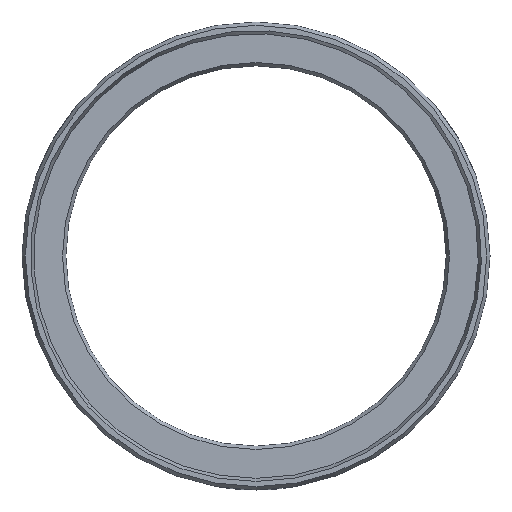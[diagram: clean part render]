
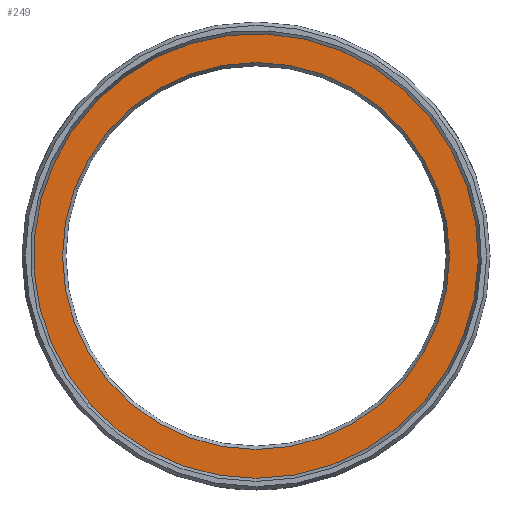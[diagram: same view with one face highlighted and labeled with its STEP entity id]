
A CAD part, left-side view. The second image highlights one B-rep face of the part: STEP entity #249.
In plain terms, the highlighted planar face has unit normal (-1, 0, 0).
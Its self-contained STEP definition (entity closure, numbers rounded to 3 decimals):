
#106=PLANE('',#985);
#249=ADVANCED_FACE('',(#309,#310),#106,.T.);
#309=FACE_BOUND('',#364,.T.);
#310=FACE_BOUND('',#365,.T.);
#364=EDGE_LOOP('',(#571));
#365=EDGE_LOOP('',(#572));
#571=ORIENTED_EDGE('',*,*,#816,.T.);
#572=ORIENTED_EDGE('',*,*,#815,.F.);
#701=VERTEX_POINT('',#1611);
#702=VERTEX_POINT('',#1614);
#815=EDGE_CURVE('',#701,#701,#881,.T.);
#816=EDGE_CURVE('',#702,#702,#882,.T.);
#881=CIRCLE('',#982,38.);
#882=CIRCLE('',#984,33.077);
#982=AXIS2_PLACEMENT_3D('',#1610,#1195,#1196);
#984=AXIS2_PLACEMENT_3D('',#1613,#1199,#1200);
#985=AXIS2_PLACEMENT_3D('',#1615,#1201,#1202);
#1195=DIRECTION('',(1.,0.,0.));
#1196=DIRECTION('',(0.,0.,-1.));
#1199=DIRECTION('',(1.,0.,0.));
#1200=DIRECTION('',(0.,0.,1.));
#1201=DIRECTION('',(-1.,0.,0.));
#1202=DIRECTION('',(0.,0.,1.));
#1610=CARTESIAN_POINT('',(0.,0.,0.));
#1611=CARTESIAN_POINT('',(0.,0.,-38.));
#1613=CARTESIAN_POINT('',(0.,0.,0.));
#1614=CARTESIAN_POINT('',(0.,0.,33.077));
#1615=CARTESIAN_POINT('',(0.,38.,0.));
